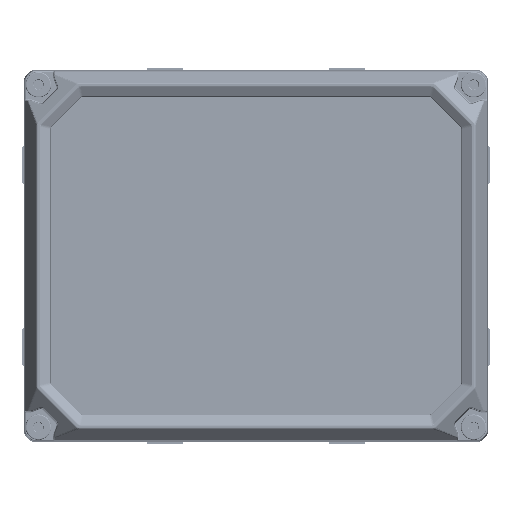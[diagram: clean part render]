
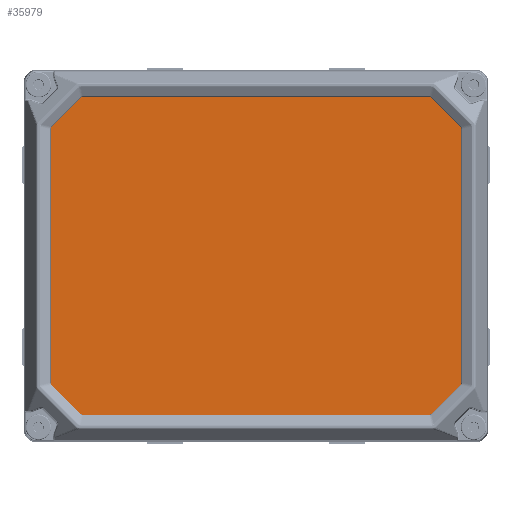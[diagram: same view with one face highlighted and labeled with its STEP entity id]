
A CAD part, top view. The second image highlights one B-rep face of the part: STEP entity #35979.
In plain terms, the highlighted planar face has unit normal (0, 0, 1).
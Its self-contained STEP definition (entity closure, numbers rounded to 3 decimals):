
#26761=PLANE('',#150684);
#35979=ADVANCED_FACE('',(#45436),#26761,.F.);
#45436=FACE_OUTER_BOUND('',#53091,.T.);
#53091=EDGE_LOOP('',(#108173,#108174,#108175,#108176,#108177,#108178,#108179,
#108180,#108181,#108182,#108183,#108184,#108185,#108186,#108187,#108188));
#59975=LINE('',#282883,#66667);
#59976=LINE('',#282885,#66668);
#59977=LINE('',#282887,#66669);
#59978=LINE('',#282889,#66670);
#59979=LINE('',#282891,#66671);
#59980=LINE('',#282893,#66672);
#59981=LINE('',#282895,#66673);
#59982=LINE('',#282897,#66674);
#66667=VECTOR('',#179685,1.);
#66668=VECTOR('',#179688,1.);
#66669=VECTOR('',#179691,1.);
#66670=VECTOR('',#179694,1.);
#66671=VECTOR('',#179697,1.);
#66672=VECTOR('',#179700,1.);
#66673=VECTOR('',#179703,1.);
#66674=VECTOR('',#179706,1.);
#108173=ORIENTED_EDGE('',*,*,#136749,.T.);
#108174=ORIENTED_EDGE('',*,*,#136679,.T.);
#108175=ORIENTED_EDGE('',*,*,#136756,.T.);
#108176=ORIENTED_EDGE('',*,*,#136701,.T.);
#108177=ORIENTED_EDGE('',*,*,#136755,.T.);
#108178=ORIENTED_EDGE('',*,*,#136697,.T.);
#108179=ORIENTED_EDGE('',*,*,#136754,.T.);
#108180=ORIENTED_EDGE('',*,*,#136695,.T.);
#108181=ORIENTED_EDGE('',*,*,#136753,.T.);
#108182=ORIENTED_EDGE('',*,*,#136691,.T.);
#108183=ORIENTED_EDGE('',*,*,#136752,.T.);
#108184=ORIENTED_EDGE('',*,*,#136689,.T.);
#108185=ORIENTED_EDGE('',*,*,#136751,.T.);
#108186=ORIENTED_EDGE('',*,*,#136685,.T.);
#108187=ORIENTED_EDGE('',*,*,#136750,.T.);
#108188=ORIENTED_EDGE('',*,*,#136683,.T.);
#119753=VERTEX_POINT('',#282542);
#119754=VERTEX_POINT('',#282544);
#119755=VERTEX_POINT('',#282548);
#119756=VERTEX_POINT('',#282550);
#119757=VERTEX_POINT('',#282554);
#119758=VERTEX_POINT('',#282556);
#119759=VERTEX_POINT('',#282560);
#119760=VERTEX_POINT('',#282562);
#119761=VERTEX_POINT('',#282566);
#119762=VERTEX_POINT('',#282568);
#119763=VERTEX_POINT('',#282572);
#119764=VERTEX_POINT('',#282574);
#119765=VERTEX_POINT('',#282578);
#119766=VERTEX_POINT('',#282580);
#119767=VERTEX_POINT('',#282584);
#119768=VERTEX_POINT('',#282586);
#136679=EDGE_CURVE('',#119754,#119753,#139740,.T.);
#136683=EDGE_CURVE('',#119755,#119756,#139741,.T.);
#136685=EDGE_CURVE('',#119758,#119757,#139742,.T.);
#136689=EDGE_CURVE('',#119759,#119760,#139743,.T.);
#136691=EDGE_CURVE('',#119762,#119761,#139744,.T.);
#136695=EDGE_CURVE('',#119763,#119764,#139745,.T.);
#136697=EDGE_CURVE('',#119766,#119765,#139746,.T.);
#136701=EDGE_CURVE('',#119767,#119768,#139747,.T.);
#136749=EDGE_CURVE('',#119756,#119754,#59975,.T.);
#136750=EDGE_CURVE('',#119757,#119755,#59976,.T.);
#136751=EDGE_CURVE('',#119760,#119758,#59977,.T.);
#136752=EDGE_CURVE('',#119761,#119759,#59978,.T.);
#136753=EDGE_CURVE('',#119764,#119762,#59979,.T.);
#136754=EDGE_CURVE('',#119765,#119763,#59980,.T.);
#136755=EDGE_CURVE('',#119768,#119766,#59981,.T.);
#136756=EDGE_CURVE('',#119753,#119767,#59982,.T.);
#139740=ELLIPSE('',#150599,1.001,1.);
#139741=ELLIPSE('',#150601,1.001,1.);
#139742=ELLIPSE('',#150603,1.001,1.);
#139743=ELLIPSE('',#150605,1.001,1.);
#139744=ELLIPSE('',#150607,1.001,1.);
#139745=ELLIPSE('',#150609,1.001,1.);
#139746=ELLIPSE('',#150611,1.001,1.);
#139747=ELLIPSE('',#150613,1.001,1.);
#150599=AXIS2_PLACEMENT_3D('',#282543,#179533,#179534);
#150601=AXIS2_PLACEMENT_3D('',#282551,#179540,#179541);
#150603=AXIS2_PLACEMENT_3D('',#282555,#179545,#179546);
#150605=AXIS2_PLACEMENT_3D('',#282563,#179552,#179553);
#150607=AXIS2_PLACEMENT_3D('',#282567,#179557,#179558);
#150609=AXIS2_PLACEMENT_3D('',#282575,#179564,#179565);
#150611=AXIS2_PLACEMENT_3D('',#282579,#179569,#179570);
#150613=AXIS2_PLACEMENT_3D('',#282587,#179576,#179577);
#150684=AXIS2_PLACEMENT_3D('',#282918,#179746,#179747);
#179533=DIRECTION('',(0.,0.,1.));
#179534=DIRECTION('',(0.383,0.924,0.));
#179540=DIRECTION('',(0.,0.,1.));
#179541=DIRECTION('',(0.924,0.383,0.));
#179545=DIRECTION('',(0.,0.,1.));
#179546=DIRECTION('',(0.924,-0.383,0.));
#179552=DIRECTION('',(0.,0.,1.));
#179553=DIRECTION('',(0.383,-0.924,0.));
#179557=DIRECTION('',(0.,0.,1.));
#179558=DIRECTION('',(-0.383,-0.924,0.));
#179564=DIRECTION('',(0.,0.,1.));
#179565=DIRECTION('',(-0.924,-0.383,0.));
#179569=DIRECTION('',(0.,0.,1.));
#179570=DIRECTION('',(-0.924,0.383,0.));
#179576=DIRECTION('',(0.,0.,1.));
#179577=DIRECTION('',(-0.383,0.924,0.));
#179685=DIRECTION('',(-0.707,0.707,0.));
#179688=DIRECTION('',(0.,1.,0.));
#179691=DIRECTION('',(0.707,0.707,0.));
#179694=DIRECTION('',(1.,0.,0.));
#179697=DIRECTION('',(0.707,-0.707,0.));
#179700=DIRECTION('',(0.,-1.,0.));
#179703=DIRECTION('',(-0.707,-0.707,0.));
#179706=DIRECTION('',(-1.,0.,0.));
#179746=DIRECTION('',(0.,0.,-1.));
#179747=DIRECTION('',(0.,-1.,0.));
#282542=CARTESIAN_POINT('',(46.546,42.8,115.5));
#282543=CARTESIAN_POINT('',(46.546,41.799,115.5));
#282544=CARTESIAN_POINT('',(47.253,42.507,115.5));
#282548=CARTESIAN_POINT('',(55.3,34.046,115.5));
#282550=CARTESIAN_POINT('',(55.007,34.753,115.5));
#282551=CARTESIAN_POINT('',(54.299,34.046,115.5));
#282554=CARTESIAN_POINT('',(55.3,-34.046,115.5));
#282555=CARTESIAN_POINT('',(54.299,-34.046,115.5));
#282556=CARTESIAN_POINT('',(55.007,-34.753,115.5));
#282560=CARTESIAN_POINT('',(46.546,-42.8,115.5));
#282562=CARTESIAN_POINT('',(47.253,-42.507,115.5));
#282563=CARTESIAN_POINT('',(46.546,-41.799,115.5));
#282566=CARTESIAN_POINT('',(-46.546,-42.8,115.5));
#282567=CARTESIAN_POINT('',(-46.546,-41.799,115.5));
#282568=CARTESIAN_POINT('',(-47.253,-42.507,115.5));
#282572=CARTESIAN_POINT('',(-55.3,-34.046,115.5));
#282574=CARTESIAN_POINT('',(-55.007,-34.753,115.5));
#282575=CARTESIAN_POINT('',(-54.299,-34.046,115.5));
#282578=CARTESIAN_POINT('',(-55.3,34.046,115.5));
#282579=CARTESIAN_POINT('',(-54.299,34.046,115.5));
#282580=CARTESIAN_POINT('',(-55.007,34.753,115.5));
#282584=CARTESIAN_POINT('',(-46.546,42.8,115.5));
#282586=CARTESIAN_POINT('',(-47.253,42.507,115.5));
#282587=CARTESIAN_POINT('',(-46.546,41.799,115.5));
#282883=CARTESIAN_POINT('',(46.96,42.8,115.5));
#282885=CARTESIAN_POINT('',(55.3,34.46,115.5));
#282887=CARTESIAN_POINT('',(55.3,-34.46,115.5));
#282889=CARTESIAN_POINT('',(46.96,-42.8,115.5));
#282891=CARTESIAN_POINT('',(-46.96,-42.8,115.5));
#282893=CARTESIAN_POINT('',(-55.3,-34.46,115.5));
#282895=CARTESIAN_POINT('',(-55.3,34.46,115.5));
#282897=CARTESIAN_POINT('',(-46.96,42.8,115.5));
#282918=CARTESIAN_POINT('',(-46.747,-42.285,115.5));
